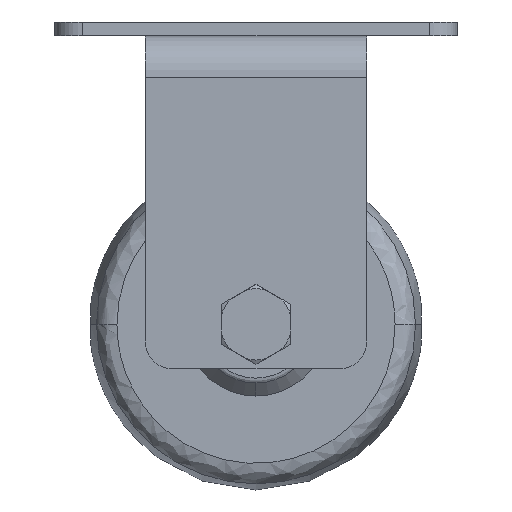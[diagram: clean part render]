
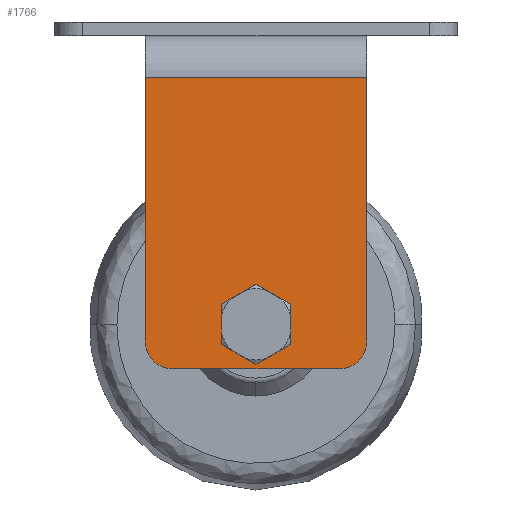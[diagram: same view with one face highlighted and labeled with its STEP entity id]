
A CAD part, left-side view. The second image highlights one B-rep face of the part: STEP entity #1766.
In plain terms, the highlighted planar face has unit normal (-1, 0, 0).
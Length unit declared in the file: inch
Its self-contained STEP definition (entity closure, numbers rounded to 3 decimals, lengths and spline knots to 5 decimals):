
#133 = ORIENTED_EDGE ( 'NONE', *, *, #1181, .T. ) ;
#244 = EDGE_CURVE ( 'NONE', #1863, #1185, #3267, .T. ) ;
#250 = CARTESIAN_POINT ( 'NONE',  ( -1., 0., -3.245 ) ) ;
#298 = EDGE_CURVE ( 'NONE', #3090, #1335, #898, .T. ) ;
#539 = DIRECTION ( 'NONE',  ( 0., 1., 0. ) ) ;
#559 = FACE_BOUND ( 'NONE', #2091, .T. ) ;
#569 = CARTESIAN_POINT ( 'NONE',  ( -1., 1., -1.02 ) ) ;
#595 = DIRECTION ( 'NONE',  ( 1., 0., 0. ) ) ;
#603 = VECTOR ( 'NONE', #994, 39.37008 ) ;
#610 = CARTESIAN_POINT ( 'NONE',  ( -1., -0.17, -3.245 ) ) ;
#715 = DIRECTION ( 'NONE',  ( -1., 0., 0. ) ) ;
#718 = ORIENTED_EDGE ( 'NONE', *, *, #954, .T. ) ;
#744 = CIRCLE ( 'NONE', #2559, 0.17 ) ;
#822 = CARTESIAN_POINT ( 'NONE',  ( -1., -1., -1.02 ) ) ;
#846 = ORIENTED_EDGE ( 'NONE', *, *, #915, .T. ) ;
#853 = DIRECTION ( 'NONE',  ( 0., -1., 0. ) ) ;
#898 = CIRCLE ( 'NONE', #2732, 0.17 ) ;
#915 = EDGE_CURVE ( 'NONE', #1381, #984, #3547, .T. ) ;
#954 = EDGE_CURVE ( 'NONE', #3306, #1381, #1942, .T. ) ;
#984 = VERTEX_POINT ( 'NONE', #1890 ) ;
#994 = DIRECTION ( 'NONE',  ( 0., -1., 0. ) ) ;
#1002 = ORIENTED_EDGE ( 'NONE', *, *, #298, .T. ) ;
#1009 = DIRECTION ( 'NONE',  ( 0., 0., -1. ) ) ;
#1031 = CARTESIAN_POINT ( 'NONE',  ( -1., 0.75, -3.395 ) ) ;
#1181 = EDGE_CURVE ( 'NONE', #1335, #3090, #744, .T. ) ;
#1185 = VERTEX_POINT ( 'NONE', #822 ) ;
#1240 = FACE_OUTER_BOUND ( 'NONE', #3647, .T. ) ;
#1313 = DIRECTION ( 'NONE',  ( 0., 0., -1. ) ) ;
#1327 = CARTESIAN_POINT ( 'NONE',  ( -1., 0.17, -3.245 ) ) ;
#1328 = DIRECTION ( 'NONE',  ( 0., 1., 0. ) ) ;
#1335 = VERTEX_POINT ( 'NONE', #610 ) ;
#1369 = DIRECTION ( 'NONE',  ( 0., 0., 1. ) ) ;
#1381 = VERTEX_POINT ( 'NONE', #2965 ) ;
#1433 = AXIS2_PLACEMENT_3D ( 'NONE', #1031, #3015, #1328 ) ;
#1512 = ORIENTED_EDGE ( 'NONE', *, *, #2512, .T. ) ;
#1562 = CARTESIAN_POINT ( 'NONE',  ( -1., 1., -1.55142 ) ) ;
#1642 = EDGE_CURVE ( 'NONE', #1185, #3059, #3093, .T. ) ;
#1659 = ORIENTED_EDGE ( 'NONE', *, *, #2123, .T. ) ;
#1668 = VECTOR ( 'NONE', #1009, 39.37008 ) ;
#1766 = ADVANCED_FACE ( 'NONE', ( #1240, #559 ), #2484, .T. ) ;
#1825 = VECTOR ( 'NONE', #1313, 39.37008 ) ;
#1863 = VERTEX_POINT ( 'NONE', #3373 ) ;
#1890 = CARTESIAN_POINT ( 'NONE',  ( -1., -0.75, -3.645 ) ) ;
#1942 = CIRCLE ( 'NONE', #1433, 0.25 ) ;
#2003 = ORIENTED_EDGE ( 'NONE', *, *, #244, .F. ) ;
#2091 = EDGE_LOOP ( 'NONE', ( #1002, #133 ) ) ;
#2123 = EDGE_CURVE ( 'NONE', #984, #3059, #2507, .T. ) ;
#2172 = AXIS2_PLACEMENT_3D ( 'NONE', #3639, #3060, #1369 ) ;
#2225 = DIRECTION ( 'NONE',  ( 1., 0., 0. ) ) ;
#2278 = CARTESIAN_POINT ( 'NONE',  ( -1., 0., -3.245 ) ) ;
#2402 = CARTESIAN_POINT ( 'NONE',  ( -1., -0.75, -3.395 ) ) ;
#2418 = CARTESIAN_POINT ( 'NONE',  ( -1., -1., -3.395 ) ) ;
#2484 = PLANE ( 'NONE',  #2172 ) ;
#2495 = VECTOR ( 'NONE', #853, 39.37008 ) ;
#2507 = CIRCLE ( 'NONE', #3566, 0.25 ) ;
#2512 = EDGE_CURVE ( 'NONE', #1863, #3306, #2663, .T. ) ;
#2559 = AXIS2_PLACEMENT_3D ( 'NONE', #250, #2225, #539 ) ;
#2567 = DIRECTION ( 'NONE',  ( 0., 1., 0. ) ) ;
#2663 = LINE ( 'NONE', #1562, #1825 ) ;
#2691 = DIRECTION ( 'NONE',  ( 0., -1., 0. ) ) ;
#2703 = CARTESIAN_POINT ( 'NONE',  ( -1., -1., -0.645 ) ) ;
#2732 = AXIS2_PLACEMENT_3D ( 'NONE', #2278, #595, #2567 ) ;
#2793 = ORIENTED_EDGE ( 'NONE', *, *, #1642, .F. ) ;
#2965 = CARTESIAN_POINT ( 'NONE',  ( -1., 0.75, -3.645 ) ) ;
#2973 = CARTESIAN_POINT ( 'NONE',  ( -1., 1., -3.645 ) ) ;
#3015 = DIRECTION ( 'NONE',  ( -1., 0., 0. ) ) ;
#3059 = VERTEX_POINT ( 'NONE', #2418 ) ;
#3060 = DIRECTION ( 'NONE',  ( -1., 0., 0. ) ) ;
#3090 = VERTEX_POINT ( 'NONE', #1327 ) ;
#3093 = LINE ( 'NONE', #2703, #1668 ) ;
#3267 = LINE ( 'NONE', #569, #2495 ) ;
#3306 = VERTEX_POINT ( 'NONE', #3491 ) ;
#3373 = CARTESIAN_POINT ( 'NONE',  ( -1., 1., -1.02 ) ) ;
#3491 = CARTESIAN_POINT ( 'NONE',  ( -1., 1., -3.395 ) ) ;
#3547 = LINE ( 'NONE', #2973, #603 ) ;
#3566 = AXIS2_PLACEMENT_3D ( 'NONE', #2402, #715, #2691 ) ;
#3639 = CARTESIAN_POINT ( 'NONE',  ( -1., 1., -3.645 ) ) ;
#3647 = EDGE_LOOP ( 'NONE', ( #718, #846, #1659, #2793, #2003, #1512 ) ) ;
